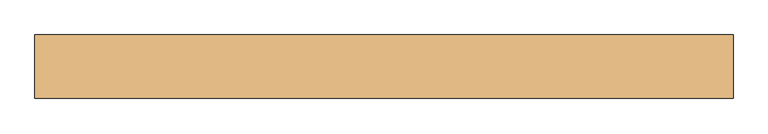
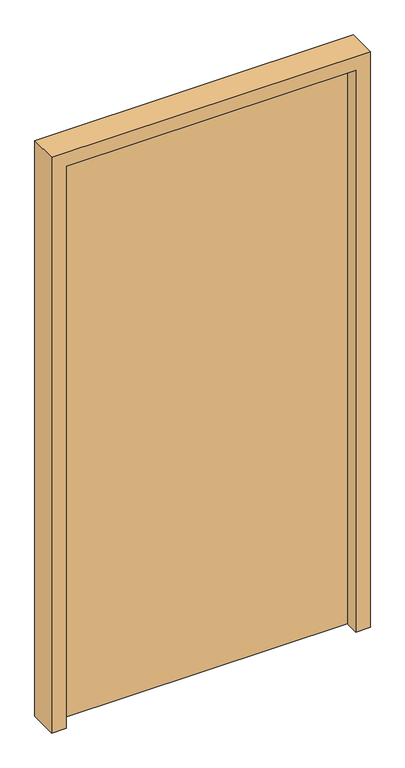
"""IFC4 building model written with IfcOpenShell, lengths in millimetres: door geometry, (Dr)_ДУ(распашная)_1Ст_Прямоугольная : (Вн)_ДГ(1.10х2.1(h))."""

from ifc_helpers import new_model, si_unit, frame, origin, origin_with_axes, place, context, project, spatial, polyline, outline, extrude, source, transform, mapped, element, save


def door_cfbb89e6(model_context):
    return source(origin(), model_context, "Body", "SweptSolid", [
        extrude(outline(polyline([(-500.0, 60.0), (500.0, 60.0), (500.0, 10.0), (-500.0, 10.0), (-500.0, 60.0)])), origin_with_axes(), (0.0, 0.0, 1.0), 2050.0),
        extrude(outline(polyline([(0.0, -550.0), (0.0, -500.0), (2050.0, -500.0), (2050.0, 500.0), (0.0, 500.0), (0.0, 550.0), (2100.0, 550.0), (2100.0, -550.0), (0.0, -550.0)])), frame((0.0, -40.0, 0.0), z_axis=(0.0, 1.0, 0.0), x_axis=(0.0, 0.0, 1.0)), (0.0, 0.0, 1.0), 100.0),
    ])


if __name__ == "__main__":
    model = new_model("IFC4")
    model_context = context("Model", 3, world=origin())
    ifc_project = project(units=[si_unit("LENGTHUNIT", "METRE", prefix="MILLI")], contexts=[model_context])
    site = spatial("IfcSite", under=ifc_project)
    building = spatial("IfcBuilding", under=site)
    placement = place(None, origin())
    door_shape = door_cfbb89e6(model_context)
    element("IfcDoor", 1, ObjectType="(Dr)_ДУ(распашная)_1Ст_Прямоугольная : (Вн)_ДГ(1.10х2.1(h))", at=placement, inside=building, context=model_context, shape_type="MappedRepresentation", body=[
        mapped(door_shape, transform((0.0, 0.0, 0.0), x_axis=(1.0, 0.0, 0.0), y_axis=(0.0, 1.0, 0.0), z_axis=(0.0, 0.0, 1.0))),
    ])
    save(model, "model.ifc")
